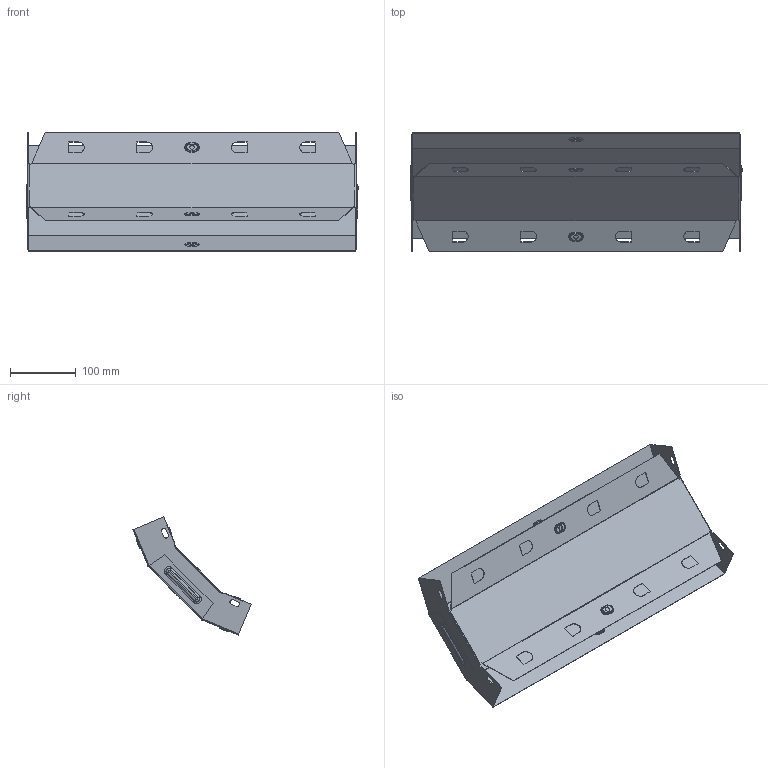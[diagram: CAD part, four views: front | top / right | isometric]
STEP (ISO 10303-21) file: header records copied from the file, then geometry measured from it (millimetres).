
FILE_DESCRIPTION (( 'STEP AP214' ), '1' );
FILE_NAME ('vo4550500_捘.STEP', '2019-06-10T08:18:57', ( '砐錪賧瘔蠈錪 Windows' ), ( '' ), 'SwSTEP 2.0', 'SolidWorks 2018', '' );
FILE_SCHEMA (( 'AUTOMOTIVE_DESIGN' ));
Length unit declared in the file: millimetre
Products named in the file (1): vo4550500_捘
Bounding box: 505.6 x 180.14 x 180.14 mm (x, y, z)
Volume: 189278.5 mm3; surface area: 476743.2 mm2
Topology: 2 solids, 2 shells, 384 faces, 954 edges, 596 vertices
Faces by surface type: plane 189, cylinder 114, torus 64, bspline 17
Entity records: 12018 total; most frequent: CARTESIAN_POINT 2691, DIRECTION 1948, ORIENTED_EDGE 1908, EDGE_CURVE 954, AXIS2_PLACEMENT_3D 676, LINE 596, VERTEX_POINT 596, VECTOR 596
